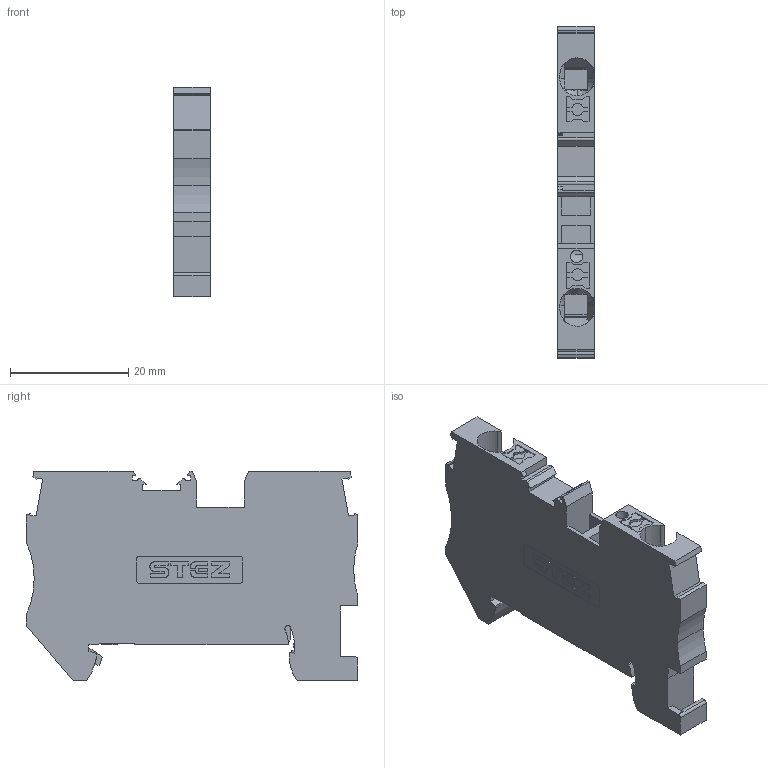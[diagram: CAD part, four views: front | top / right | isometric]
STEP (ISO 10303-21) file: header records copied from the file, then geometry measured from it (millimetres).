
FILE_DESCRIPTION(('TFLEX Exchange Step'),'2;1');
FILE_NAME('14000022_КНБ_4-2-PE.stp', '2025-06-24T10:51:00+03:00',('MVarava'),('Unknown organisation'),'TFLEX Exchange 2023.0','T-FLEX CAD','Unknown authorisation');
FILE_SCHEMA( ('AUTOMOTIVE_DESIGN { 1 0 10303 214 1 1 1 1 }') );
Length unit declared in the file: millimetre
Products named in the file (1): Nodes
Bounding box: 6.15 x 56 x 35.35 mm (x, y, z)
Volume: 8628.7 mm3; surface area: 5588 mm2
Topology: 1 solids, 1 shells, 435 faces, 1269 edges, 846 vertices
Faces by surface type: plane 231, cylinder 196, cone 4, torus 4
Full cylindrical faces by diameter (mm): 2.1 x1
Entity records: 15522 total; most frequent: CARTESIAN_POINT 3915, ORIENTED_EDGE 2538, DIRECTION 2293, EDGE_CURVE 1269, VERTEX_POINT 846, AXIS2_PLACEMENT_3D 775, VECTOR 743, LINE 743
